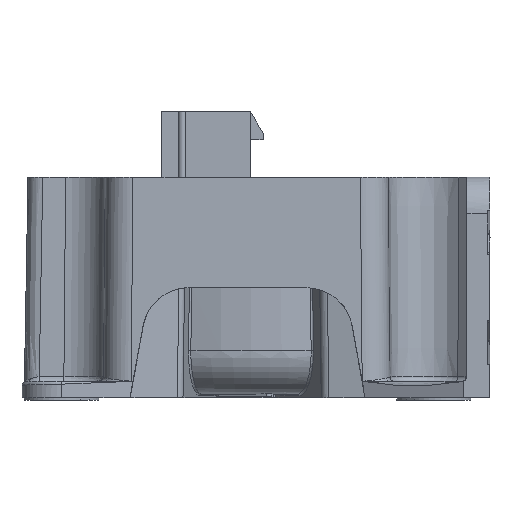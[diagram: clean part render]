
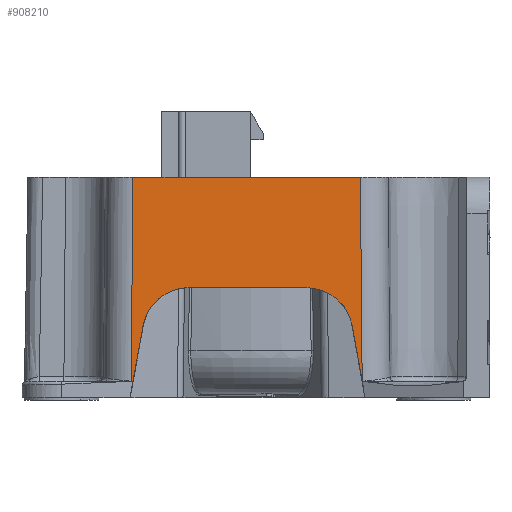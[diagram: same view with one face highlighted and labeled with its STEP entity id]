
A CAD part, left-side view. The second image highlights one B-rep face of the part: STEP entity #908210.
In plain terms, the highlighted planar face has unit normal (-1, 0, 0.018).
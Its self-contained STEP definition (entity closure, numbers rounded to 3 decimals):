
#539380=CARTESIAN_POINT('',(-24.087,12.629,
-5.47));
#539390=VERTEX_POINT('',#539380);
#716110=CARTESIAN_POINT('',(-24.087,-19.32,
-5.47));
#716120=DIRECTION('',(0.,-1.,0.));
#716130=VECTOR('',#716120,1.);
#716140=LINE('',#716110,#716130);
#716150=CARTESIAN_POINT('',(-24.087,12.411,
-5.47));
#716160=VERTEX_POINT('',#716150);
#716170=EDGE_CURVE('',#539390,#716160,#716140,.T.);
#736470=CARTESIAN_POINT('',(-23.7,12.436,
16.682));
#736480=VERTEX_POINT('',#736470);
#736510=CARTESIAN_POINT('',(-24.164,12.667,
-9.879));
#736520=DIRECTION('',(-0.017,0.009,
-1.));
#736530=VECTOR('',#736520,1.);
#736540=LINE('',#736510,#736530);
#736550=EDGE_CURVE('',#736480,#539390,#736540,.T.);
#808970=CARTESIAN_POINT('',(-24.087,-12.421,
-5.47));
#808980=VERTEX_POINT('',#808970);
#809030=CARTESIAN_POINT('',(-24.164,-12.46,
-9.879));
#809040=DIRECTION('',(0.017,0.009,
1.));
#809050=VECTOR('',#809040,1.);
#809060=LINE('',#809030,#809050);
#809070=CARTESIAN_POINT('',(-23.7,-12.228,
16.682));
#809080=VERTEX_POINT('',#809070);
#809090=EDGE_CURVE('',#808980,#809080,#809060,.T.);
#845190=CARTESIAN_POINT('',(-23.981,11.312,
0.576));
#845200=VERTEX_POINT('',#845190);
#845360=CARTESIAN_POINT('',(-24.165,13.221,
-9.931));
#845370=DIRECTION('',(0.017,-0.179,
0.984));
#845380=VECTOR('',#845370,1.);
#845390=LINE('',#845360,#845380);
#845400=EDGE_CURVE('',#716160,#845200,#845390,.T.);
#879980=CARTESIAN_POINT('',(-23.997,-6.295,
-0.318));
#879990=DIRECTION('',(1.,0.,
-0.017));
#880000=DIRECTION('',(0.002,-0.996,
0.088));
#880010=AXIS2_PLACEMENT_3D('',#879980,#879990,#880000);
#880020=ELLIPSE('',#880010,5.097,5.);
#880030=CARTESIAN_POINT('',(-23.909,-6.312,
4.682));
#880040=VERTEX_POINT('',#880030);
#880050=CARTESIAN_POINT('',(-23.981,-11.312,
0.576));
#880060=VERTEX_POINT('',#880050);
#880070=EDGE_CURVE('',#880040,#880060,#880020,.T.);
#880720=CARTESIAN_POINT('',(-23.997,6.295,
-0.318));
#880730=DIRECTION('',(1.,0.,
-0.017));
#880740=DIRECTION('',(-0.002,-0.996,
-0.088));
#880750=AXIS2_PLACEMENT_3D('',#880720,#880730,#880740);
#880760=ELLIPSE('',#880750,5.097,5.);
#880770=CARTESIAN_POINT('',(-23.909,6.312,
4.682));
#880780=VERTEX_POINT('',#880770);
#880790=EDGE_CURVE('',#845200,#880780,#880760,.T.);
#885610=CARTESIAN_POINT('',(-23.909,-19.32,
4.682));
#885620=DIRECTION('',(0.,1.,0.));
#885630=VECTOR('',#885620,1.);
#885640=LINE('',#885610,#885630);
#885650=EDGE_CURVE('',#880040,#880780,#885640,.T.);
#885800=CARTESIAN_POINT('',(-24.087,-12.411,
-5.47));
#885810=VERTEX_POINT('',#885800);
#885870=CARTESIAN_POINT('',(-24.165,-13.221,
-9.931));
#885880=DIRECTION('',(0.017,0.179,
0.984));
#885890=VECTOR('',#885880,1.);
#885900=LINE('',#885870,#885890);
#885910=EDGE_CURVE('',#885810,#880060,#885900,.T.);
#907830=CARTESIAN_POINT('',(-24.087,-19.32,
-5.47));
#907840=DIRECTION('',(0.,-1.,0.));
#907850=VECTOR('',#907840,1.);
#907860=LINE('',#907830,#907850);
#907870=EDGE_CURVE('',#885810,#808980,#907860,.T.);
#907990=CARTESIAN_POINT('',(-23.7,0.,
16.684));
#908000=DIRECTION('',(1.,0.,
-0.017));
#908010=DIRECTION('',(0.,-1.,0.));
#908020=AXIS2_PLACEMENT_3D('',#907990,#908000,#908010);
#908030=PLANE('',#908020);
#908040=ORIENTED_EDGE('',*,*,#885910,.F.);
#908050=ORIENTED_EDGE('',*,*,#880070,.T.);
#908060=ORIENTED_EDGE('',*,*,#885650,.F.);
#908070=ORIENTED_EDGE('',*,*,#880790,.T.);
#908080=ORIENTED_EDGE('',*,*,#845400,.T.);
#908090=ORIENTED_EDGE('',*,*,#716170,.T.);
#908100=ORIENTED_EDGE('',*,*,#736550,.T.);
#908110=CARTESIAN_POINT('',(-23.7,-19.32,
16.682));
#908120=DIRECTION('',(0.,-1.,0.));
#908130=VECTOR('',#908120,1.);
#908140=LINE('',#908110,#908130);
#908150=EDGE_CURVE('',#736480,#809080,#908140,.T.);
#908160=ORIENTED_EDGE('',*,*,#908150,.F.);
#908170=ORIENTED_EDGE('',*,*,#809090,.T.);
#908180=ORIENTED_EDGE('',*,*,#907870,.T.);
#908190=EDGE_LOOP('',(#908180,#908170,#908160,#908100,#908090,#908080,
#908070,#908060,#908050,#908040));
#908200=FACE_OUTER_BOUND('',#908190,.T.);
#908210=ADVANCED_FACE('',(#908200),#908030,.F.);
